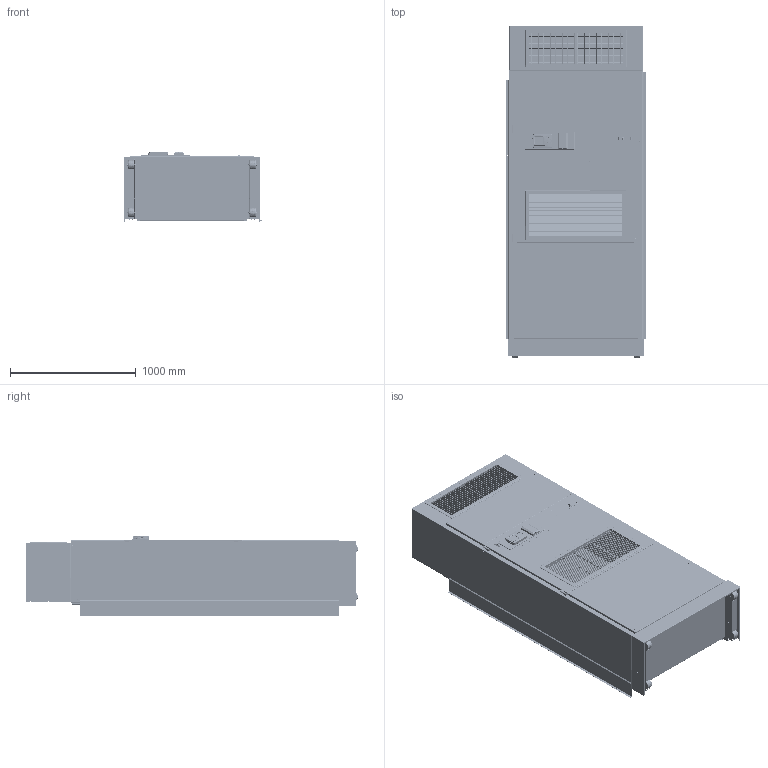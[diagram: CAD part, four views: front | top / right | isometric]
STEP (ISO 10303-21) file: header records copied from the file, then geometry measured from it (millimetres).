
FILE_DESCRIPTION (( 'STEP AP214' ), '1' );
FILE_NAME ('STEP_2100.STEP', '2016-07-12T19:05:15', ( 'BMC' ), ( 'Bard Manufacturing Co., Inc.' ), 'SwSTEP 2.0', 'SolidWorks 2016', '' );
FILE_SCHEMA (( 'AUTOMOTIVE_DESIGN' ));
Length unit declared in the file: inch
Products named in the file (1): STEP_2100
Bounding box: 1115.41 x 2641.79 x 642.26 mm (x, y, z)
Surface area: 35264606.4 mm2 (no closed solid volume)
Topology: 0 solids, 264 shells, 9842 faces, 25985 edges, 16790 vertices
Faces by surface type: plane 4670, cylinder 3347, cone 1097, bspline 367, torus 357, sphere 4
Entity records: 351086 total; most frequent: CARTESIAN_POINT 87793, DIRECTION 51942, ORIENTED_EDGE 51724, EDGE_CURVE 25863, AXIS2_PLACEMENT_3D 18354, VERTEX_POINT 16788, VECTOR 15234, LINE 15234
